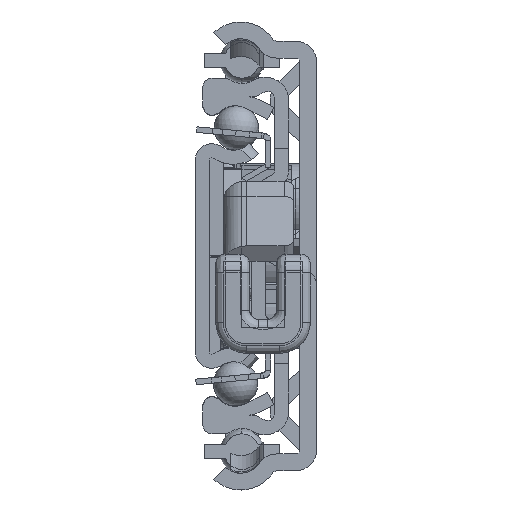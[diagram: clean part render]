
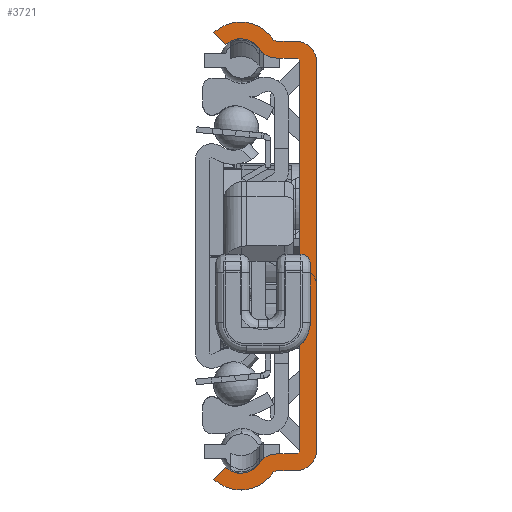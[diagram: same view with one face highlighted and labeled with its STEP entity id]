
A CAD part, left-side view. The second image highlights one B-rep face of the part: STEP entity #3721.
In plain terms, the highlighted planar face has unit normal (-1, 0, 0).
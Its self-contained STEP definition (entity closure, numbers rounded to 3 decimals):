
#1=DIRECTION('',(0.,1.,0.));
#2=VECTOR('',#1,1.975);
#3=CARTESIAN_POINT('',(0.,2.3,21.15));
#4=LINE('',#3,#2);
#5=CARTESIAN_POINT('',(0.,4.275,23.45));
#6=DIRECTION('',(-1.,0.,0.));
#7=DIRECTION('',(0.,0.827,-0.562));
#8=AXIS2_PLACEMENT_3D('',#5,#6,#7);
#10=CARTESIAN_POINT('',(0.,8.147,20.82));
#11=DIRECTION('',(-1.,0.,0.));
#12=DIRECTION('',(0.,-0.827,0.562));
#13=AXIS2_PLACEMENT_3D('',#10,#11,#12);
#15=DIRECTION('',(0.,0.683,0.731));
#16=VECTOR('',#15,1.8);
#17=CARTESIAN_POINT('',(0.,9.771,22.559));
#18=LINE('',#17,#16);
#19=CARTESIAN_POINT('',(0.,8.147,20.82));
#20=DIRECTION('',(1.,0.,0.));
#21=DIRECTION('',(0.,0.683,0.731));
#22=AXIS2_PLACEMENT_3D('',#19,#20,#21);
#24=DIRECTION('',(0.,-1.,0.));
#25=VECTOR('',#24,1.975);
#26=CARTESIAN_POINT('',(0.,4.275,22.95));
#27=LINE('',#26,#25);
#28=CARTESIAN_POINT('',(0.,2.3,20.65));
#29=DIRECTION('',(-1.,0.,0.));
#30=DIRECTION('',(0.,-1.,0.));
#31=AXIS2_PLACEMENT_3D('',#28,#29,#30);
#33=DIRECTION('',(0.,0.,-1.));
#34=VECTOR('',#33,41.3);
#35=CARTESIAN_POINT('',(0.,0.,20.65));
#36=LINE('',#35,#34);
#37=CARTESIAN_POINT('',(0.,2.3,-20.65));
#38=DIRECTION('',(-1.,0.,0.));
#39=DIRECTION('',(0.,0.,-1.));
#40=AXIS2_PLACEMENT_3D('',#37,#38,#39);
#42=DIRECTION('',(0.,1.,0.));
#43=VECTOR('',#42,1.975);
#44=CARTESIAN_POINT('',(0.,2.3,-22.95));
#45=LINE('',#44,#43);
#46=CARTESIAN_POINT('',(0.,8.147,-20.82));
#47=DIRECTION('',(1.,0.,0.));
#48=DIRECTION('',(0.,-0.827,-0.562));
#49=AXIS2_PLACEMENT_3D('',#46,#47,#48);
#51=DIRECTION('',(0.,-0.683,0.731));
#52=VECTOR('',#51,1.8);
#53=CARTESIAN_POINT('',(0.,11.,-23.875));
#54=LINE('',#53,#52);
#55=CARTESIAN_POINT('',(0.,8.147,-20.82));
#56=DIRECTION('',(-1.,0.,0.));
#57=DIRECTION('',(0.,0.683,-0.731));
#58=AXIS2_PLACEMENT_3D('',#55,#56,#57);
#60=CARTESIAN_POINT('',(0.,4.275,-23.45));
#61=DIRECTION('',(-1.,0.,0.));
#62=DIRECTION('',(0.,0.,1.));
#63=AXIS2_PLACEMENT_3D('',#60,#61,#62);
#65=DIRECTION('',(0.,-1.,0.));
#66=VECTOR('',#65,1.975);
#67=CARTESIAN_POINT('',(0.,4.275,-21.15));
#68=LINE('',#67,#66);
#181=DIRECTION('',(0.,0.,-1.));
#182=VECTOR('',#181,41.3);
#183=CARTESIAN_POINT('',(0.,1.8,20.65));
#184=LINE('',#183,#182);
#681=CARTESIAN_POINT('',(0.,2.3,-20.65));
#682=DIRECTION('',(1.,0.,0.));
#683=DIRECTION('',(0.,-1.,0.));
#684=AXIS2_PLACEMENT_3D('',#681,#682,#683);
#798=CARTESIAN_POINT('',(0.,4.275,-23.45));
#799=DIRECTION('',(1.,0.,0.));
#800=DIRECTION('',(0.,0.827,0.562));
#801=AXIS2_PLACEMENT_3D('',#798,#799,#800);
#1566=CARTESIAN_POINT('',(0.,4.275,23.45));
#1567=DIRECTION('',(1.,0.,0.));
#1568=DIRECTION('',(0.,0.,-1.));
#1569=AXIS2_PLACEMENT_3D('',#1566,#1567,#1568);
#1715=CARTESIAN_POINT('',(0.,2.3,20.65));
#1716=DIRECTION('',(1.,0.,0.));
#1717=DIRECTION('',(0.,0.,1.));
#1718=AXIS2_PLACEMENT_3D('',#1715,#1716,#1717);
#2840=CARTESIAN_POINT('',(0.,11.,-23.875));
#2841=CARTESIAN_POINT('',(0.,9.771,-22.559));
#2842=VERTEX_POINT('',#2840);
#2843=VERTEX_POINT('',#2841);
#2844=CARTESIAN_POINT('',(0.,9.771,22.559));
#2845=CARTESIAN_POINT('',(0.,11.,23.875));
#2846=VERTEX_POINT('',#2844);
#2847=VERTEX_POINT('',#2845);
#2856=CARTESIAN_POINT('',(0.,4.275,22.95));
#2857=CARTESIAN_POINT('',(0.,4.689,23.169));
#2858=VERTEX_POINT('',#2856);
#2859=VERTEX_POINT('',#2857);
#2864=CARTESIAN_POINT('',(0.,4.689,-23.169));
#2865=CARTESIAN_POINT('',(0.,4.275,-22.95));
#2866=VERTEX_POINT('',#2864);
#2867=VERTEX_POINT('',#2865);
#2872=CARTESIAN_POINT('',(0.,2.3,-21.15));
#2874=VERTEX_POINT('',#2872);
#2876=CARTESIAN_POINT('',(0.,2.3,21.15));
#2878=VERTEX_POINT('',#2876);
#2880=CARTESIAN_POINT('',(0.,1.8,-20.65));
#2881=VERTEX_POINT('',#2880);
#2884=CARTESIAN_POINT('',(0.,1.8,20.65));
#2885=VERTEX_POINT('',#2884);
#2888=CARTESIAN_POINT('',(0.,4.275,-21.15));
#2889=CARTESIAN_POINT('',(0.,6.178,-22.157));
#2890=VERTEX_POINT('',#2888);
#2891=VERTEX_POINT('',#2889);
#2896=CARTESIAN_POINT('',(0.,0.,20.65));
#2897=CARTESIAN_POINT('',(0.,2.3,22.95));
#2898=VERTEX_POINT('',#2896);
#2899=VERTEX_POINT('',#2897);
#2904=CARTESIAN_POINT('',(0.,6.178,22.157));
#2905=CARTESIAN_POINT('',(0.,4.275,21.15));
#2906=VERTEX_POINT('',#2904);
#2907=VERTEX_POINT('',#2905);
#2912=CARTESIAN_POINT('',(0.,2.3,-22.95));
#2913=CARTESIAN_POINT('',(0.,0.,-20.65));
#2914=VERTEX_POINT('',#2912);
#2915=VERTEX_POINT('',#2913);
#3674=CARTESIAN_POINT('',(0.,0.,0.));
#3675=DIRECTION('',(1.,0.,0.));
#3676=DIRECTION('',(0.,-1.,0.));
#3677=AXIS2_PLACEMENT_3D('',#3674,#3675,#3676);
#3678=PLANE('',#3677);
#3680=ORIENTED_EDGE('',*,*,#3679,.F.);
#3682=ORIENTED_EDGE('',*,*,#3681,.F.);
#3684=ORIENTED_EDGE('',*,*,#3683,.T.);
#3686=ORIENTED_EDGE('',*,*,#3685,.F.);
#3688=ORIENTED_EDGE('',*,*,#3687,.T.);
#3690=ORIENTED_EDGE('',*,*,#3689,.T.);
#3692=ORIENTED_EDGE('',*,*,#3691,.T.);
#3694=ORIENTED_EDGE('',*,*,#3693,.F.);
#3696=ORIENTED_EDGE('',*,*,#3695,.T.);
#3698=ORIENTED_EDGE('',*,*,#3697,.F.);
#3700=ORIENTED_EDGE('',*,*,#3699,.T.);
#3702=ORIENTED_EDGE('',*,*,#3701,.F.);
#3704=ORIENTED_EDGE('',*,*,#3703,.T.);
#3706=ORIENTED_EDGE('',*,*,#3705,.F.);
#3708=ORIENTED_EDGE('',*,*,#3707,.T.);
#3710=ORIENTED_EDGE('',*,*,#3709,.T.);
#3712=ORIENTED_EDGE('',*,*,#3711,.T.);
#3714=ORIENTED_EDGE('',*,*,#3713,.F.);
#3716=ORIENTED_EDGE('',*,*,#3715,.T.);
#3718=ORIENTED_EDGE('',*,*,#3717,.F.);
#3719=EDGE_LOOP('',(#3680,#3682,#3684,#3686,#3688,#3690,#3692,#3694,#3696,#3698,
#3700,#3702,#3704,#3706,#3708,#3710,#3712,#3714,#3716,#3718));
#3720=FACE_OUTER_BOUND('',#3719,.F.);
#9=CIRCLE('',#8,2.3);
#14=CIRCLE('',#13,2.38);
#23=CIRCLE('',#22,4.18);
#32=CIRCLE('',#31,2.3);
#41=CIRCLE('',#40,2.3);
#50=CIRCLE('',#49,4.18);
#59=CIRCLE('',#58,2.38);
#64=CIRCLE('',#63,2.3);
#685=CIRCLE('',#684,0.5);
#802=CIRCLE('',#801,0.5);
#1570=CIRCLE('',#1569,0.5);
#1719=CIRCLE('',#1718,0.5);
#3679=EDGE_CURVE('',#2885,#2881,#184,.T.);
#3681=EDGE_CURVE('',#2878,#2885,#1719,.T.);
#3683=EDGE_CURVE('',#2878,#2907,#4,.T.);
#3685=EDGE_CURVE('',#2906,#2907,#9,.T.);
#3687=EDGE_CURVE('',#2906,#2846,#14,.T.);
#3689=EDGE_CURVE('',#2846,#2847,#18,.T.);
#3691=EDGE_CURVE('',#2847,#2859,#23,.T.);
#3693=EDGE_CURVE('',#2858,#2859,#1570,.T.);
#3695=EDGE_CURVE('',#2858,#2899,#27,.T.);
#3697=EDGE_CURVE('',#2898,#2899,#32,.T.);
#3699=EDGE_CURVE('',#2898,#2915,#36,.T.);
#3701=EDGE_CURVE('',#2914,#2915,#41,.T.);
#3703=EDGE_CURVE('',#2914,#2867,#45,.T.);
#3705=EDGE_CURVE('',#2866,#2867,#802,.T.);
#3707=EDGE_CURVE('',#2866,#2842,#50,.T.);
#3709=EDGE_CURVE('',#2842,#2843,#54,.T.);
#3711=EDGE_CURVE('',#2843,#2891,#59,.T.);
#3713=EDGE_CURVE('',#2890,#2891,#64,.T.);
#3715=EDGE_CURVE('',#2890,#2874,#68,.T.);
#3717=EDGE_CURVE('',#2881,#2874,#685,.T.);
#3721=ADVANCED_FACE('',(#3720),#3678,.F.);
